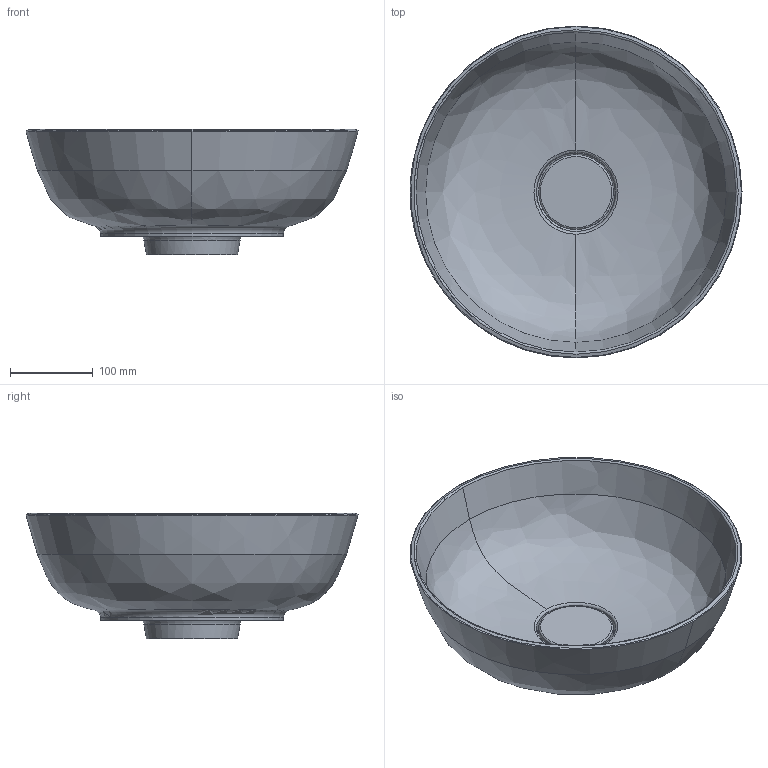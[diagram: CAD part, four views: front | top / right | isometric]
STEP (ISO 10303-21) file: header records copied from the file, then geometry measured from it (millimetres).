
FILE_DESCRIPTION(/* description */ (''),/* implementation_level */ '2;1');
FILE_NAME(/* name */ 'c:\worker\convert-fusion-r08\tmp\job-1\172\output\files\29e1deb7-f603-4302-9d9a-4a8c5c9726d4\267c5168-2c1d-4c0e-860e-a9e5752c7eb6.stp',/* time_stamp */ '2019-11-26T08:27:12+00:00',/* author */ (''),/* organization */ (''),/* preprocessor_version */ 'ST-DEVELOPER v18',/* originating_system */ 'Autodesk Translation Framework v8.12.0.6',/* authorisation */ '');
FILE_SCHEMA (('AUTOMOTIVE_DESIGN { 1 0 10303 214 3 1 1 }'));
Length unit declared in the file: millimetre
Products named in the file (2): SILKR400BP; SILKR400BP_1
Assembly tree (1 placements, depth 2):
  SILKR400BP
    SILKR400BP_1
Bounding box: 400.07 x 400.07 x 151.04 mm (x, y, z)
Volume: 2277298.8 mm3; surface area: 435045.2 mm2
Topology: 2 solids, 2 shells, 35 faces, 104 edges, 73 vertices
Faces by surface type: torus 11, bspline 10, cone 9, plane 3, sphere 1, cylinder 1
Full cylindrical faces by diameter (mm): 44 x1
Entity records: 1444 total; most frequent: CARTESIAN_POINT 415, DIRECTION 234, ORIENTED_EDGE 208, AXIS2_PLACEMENT_3D 112, EDGE_CURVE 104, CIRCLE 84, VERTEX_POINT 73, EDGE_LOOP 37
